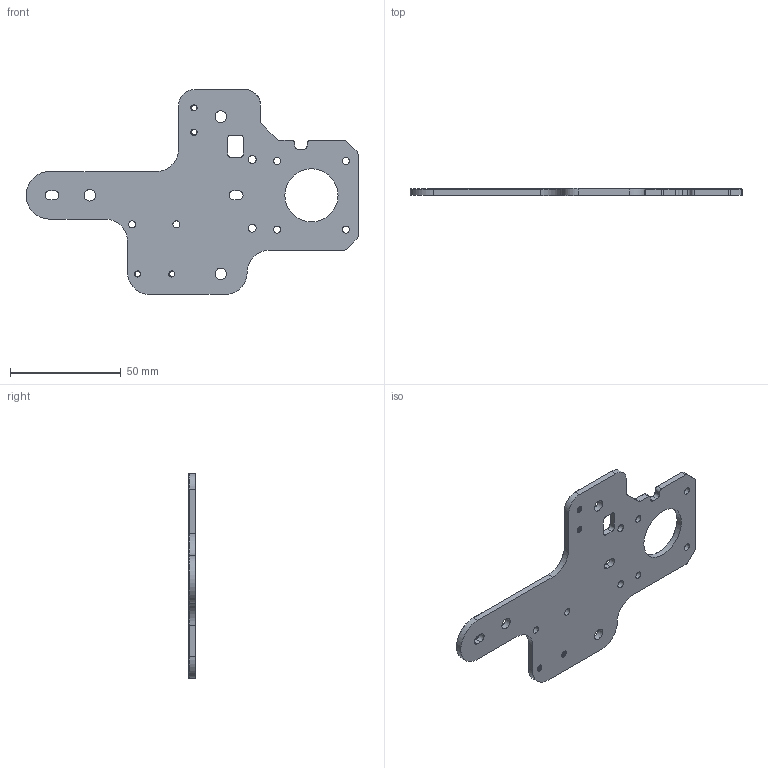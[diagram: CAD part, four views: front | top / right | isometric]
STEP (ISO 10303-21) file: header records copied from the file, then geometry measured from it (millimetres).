
FILE_DESCRIPTION(/* description */ (''),/* implementation_level */ '2;1');
FILE_NAME(/* name */ 'RXZ mount_.step',/* time_stamp */ '2023-07-15T11:39:15+02:00',/* author */ (''),/* organization */ (''),/* preprocessor_version */ 'ST-DEVELOPER v19.2',/* originating_system */ 'Autodesk Translation Framework v12.6.0.85',/* authorisation */ '');
FILE_SCHEMA (('AUTOMOTIVE_DESIGN { 1 0 10303 214 3 1 1 }'));
Length unit declared in the file: millimetre
Products named in the file (1): Sxz mount
Bounding box: 149.85 x 3 x 92.5 mm (x, y, z)
Volume: 20839.9 mm3; surface area: 16176.9 mm2
Topology: 1 solids, 1 shells, 366 faces, 1005 edges, 647 vertices
Faces by surface type: bspline 114, plane 106, cylinder 92, cone 54
Full cylindrical faces by diameter (mm): 2.529 x8, 3.086 x4, 3.2 x6, 3.6 x2, 5.2 x3, 24 x1
Entity records: 18200 total; most frequent: CARTESIAN_POINT 10129, ORIENTED_EDGE 1974, DIRECTION 1231, EDGE_CURVE 987, VERTEX_POINT 639, LINE 447, VECTOR 447, EDGE_LOOP 404
